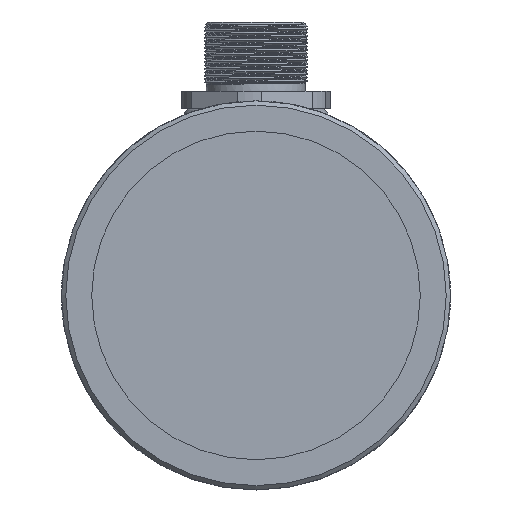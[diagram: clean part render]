
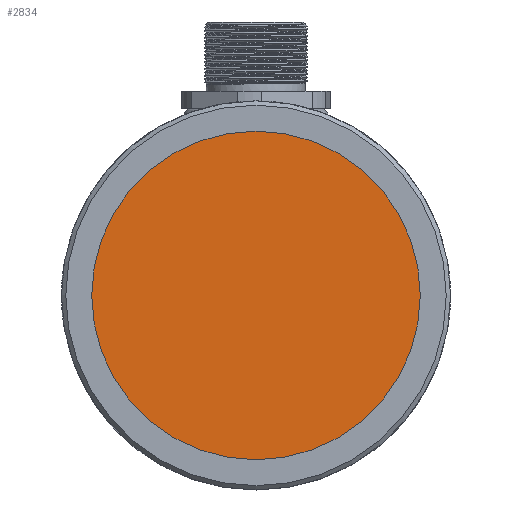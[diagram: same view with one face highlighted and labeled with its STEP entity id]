
A CAD part, left-side view. The second image highlights one B-rep face of the part: STEP entity #2834.
In plain terms, the highlighted planar face has unit normal (-1, 0, 0).
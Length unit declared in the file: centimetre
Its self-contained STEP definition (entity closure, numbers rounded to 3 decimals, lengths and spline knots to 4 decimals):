
#804=CIRCLE('',#3004,1.9);
#906=VERTEX_POINT('',#3707);
#1393=EDGE_CURVE('',#906,#906,#804,.T.);
#1783=ORIENTED_EDGE('',*,*,#1393,.T.);
#2425=EDGE_LOOP('',(#1783));
#2630=FACE_BOUND('',#2425,.T.);
#2834=ADVANCED_FACE('',(#2630),#14937,.T.);
#3004=AXIS2_PLACEMENT_3D('',#3706,#3231,#3232);
#3006=AXIS2_PLACEMENT_3D('',#3710,#3235,$);
#3231=DIRECTION('',(-1.,0.,0.));
#3232=DIRECTION('',(0.,0.,1.9));
#3235=DIRECTION('',(-1.,0.,0.));
#3706=CARTESIAN_POINT('',(0.1,0.,0.));
#3707=CARTESIAN_POINT('',(0.1,0.,1.9));
#3710=CARTESIAN_POINT('',(0.1,0.,0.));
#14937=PLANE('',#3006);
